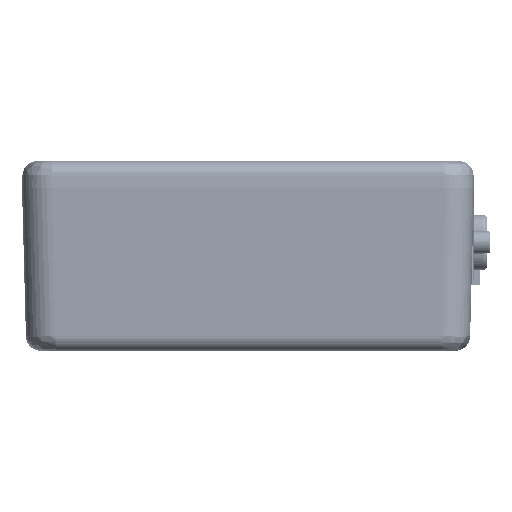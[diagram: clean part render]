
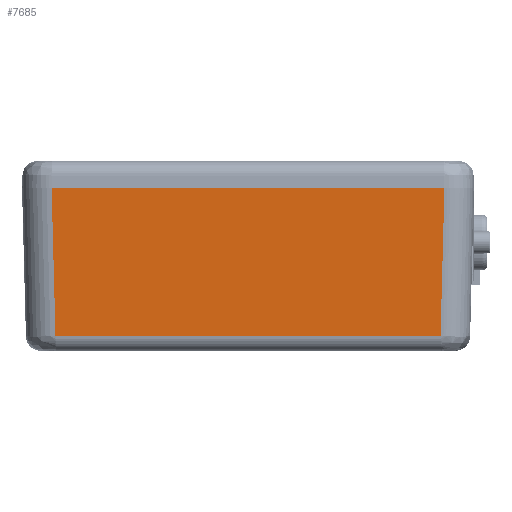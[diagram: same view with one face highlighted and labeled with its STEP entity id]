
A CAD part, left-side view. The second image highlights one B-rep face of the part: STEP entity #7685.
In plain terms, the highlighted planar face has unit normal (-1, 0, -0.026).
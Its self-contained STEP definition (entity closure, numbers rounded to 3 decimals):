
#516 = PLANE('',#517);
#517 = AXIS2_PLACEMENT_3D('',#518,#519,#520);
#518 = CARTESIAN_POINT('',(0.,1.,22.5));
#519 = DIRECTION('',(0.,0.,1.));
#520 = DIRECTION('',(-1.,0.,0.));
#1562 = VERTEX_POINT('',#1563);
#1563 = CARTESIAN_POINT('',(-60.,35.043,22.5));
#1582 = CYLINDRICAL_SURFACE('',#1583,5.);
#1583 = AXIS2_PLACEMENT_3D('',#1584,#1585,#1586);
#1584 = CARTESIAN_POINT('',(-54.966,35.007,
    21.28));
#1585 = DIRECTION('',(-0.026,0.026,
    0.999));
#1586 = DIRECTION('',(-0.707,0.707,-0.037)
  );
#1616 = EDGE_CURVE('',#1562,#1617,#1619,.T.);
#1617 = VERTEX_POINT('',#1618);
#1618 = CARTESIAN_POINT('',(-60.,-31.264,22.5));
#1619 = SURFACE_CURVE('',#1620,(#1624,#1631),.PCURVE_S1.);
#1620 = LINE('',#1621,#1622);
#1621 = CARTESIAN_POINT('',(-60.,19.25,22.5));
#1622 = VECTOR('',#1623,1.);
#1623 = DIRECTION('',(0.,-1.,0.));
#1624 = PCURVE('',#516,#1625);
#1625 = DEFINITIONAL_REPRESENTATION('',(#1626),#1630);
#1626 = LINE('',#1627,#1628);
#1627 = CARTESIAN_POINT('',(60.,-18.25));
#1628 = VECTOR('',#1629,1.);
#1629 = DIRECTION('',(0.,1.));
#1630 = ( GEOMETRIC_REPRESENTATION_CONTEXT(2) 
PARAMETRIC_REPRESENTATION_CONTEXT() REPRESENTATION_CONTEXT('2D SPACE',''
  ) );
#1631 = PCURVE('',#1632,#1637);
#1632 = PLANE('',#1633);
#1633 = AXIS2_PLACEMENT_3D('',#1634,#1635,#1636);
#1634 = CARTESIAN_POINT('',(-60.,19.25,22.5));
#1635 = DIRECTION('',(-1.,0.,
    -0.026));
#1636 = DIRECTION('',(-0.026,0.,
    1.));
#1637 = DEFINITIONAL_REPRESENTATION('',(#1638),#1642);
#1638 = LINE('',#1639,#1640);
#1639 = CARTESIAN_POINT('',(0.,0.));
#1640 = VECTOR('',#1641,1.);
#1641 = DIRECTION('',(0.,-1.));
#1642 = ( GEOMETRIC_REPRESENTATION_CONTEXT(2) 
PARAMETRIC_REPRESENTATION_CONTEXT() REPRESENTATION_CONTEXT('2D SPACE',''
  ) );
#1665 = CYLINDRICAL_SURFACE('',#1666,5.);
#1666 = AXIS2_PLACEMENT_3D('',#1667,#1668,#1669);
#1667 = CARTESIAN_POINT('',(-54.976,-31.238,
    21.634));
#1668 = DIRECTION('',(0.026,0.026,
    -0.999));
#1669 = DIRECTION('',(-0.707,-0.707,-0.037
    ));
#6939 = VERTEX_POINT('',#6940);
#6940 = CARTESIAN_POINT('',(-59.344,-30.608,
    -2.565));
#6954 = CYLINDRICAL_SURFACE('',#6955,2.5);
#6955 = AXIS2_PLACEMENT_3D('',#6956,#6957,#6958);
#6956 = CARTESIAN_POINT('',(-56.844,10.125,-2.5));
#6957 = DIRECTION('',(0.,1.,0.));
#6958 = DIRECTION('',(-0.698,0.,-0.716
    ));
#7455 = VERTEX_POINT('',#7456);
#7456 = CARTESIAN_POINT('',(-59.344,34.386,
    -2.565));
#7618 = EDGE_CURVE('',#6939,#7455,#7619,.T.);
#7619 = SURFACE_CURVE('',#7620,(#7624,#7631),.PCURVE_S1.);
#7620 = LINE('',#7621,#7622);
#7621 = CARTESIAN_POINT('',(-59.344,10.125,-2.565));
#7622 = VECTOR('',#7623,1.);
#7623 = DIRECTION('',(0.,1.,0.));
#7624 = PCURVE('',#6954,#7625);
#7625 = DEFINITIONAL_REPRESENTATION('',(#7626),#7630);
#7626 = LINE('',#7627,#7628);
#7627 = CARTESIAN_POINT('',(0.772,0.));
#7628 = VECTOR('',#7629,1.);
#7629 = DIRECTION('',(0.,1.));
#7630 = ( GEOMETRIC_REPRESENTATION_CONTEXT(2) 
PARAMETRIC_REPRESENTATION_CONTEXT() REPRESENTATION_CONTEXT('2D SPACE',''
  ) );
#7631 = PCURVE('',#1632,#7632);
#7632 = DEFINITIONAL_REPRESENTATION('',(#7633),#7637);
#7633 = LINE('',#7634,#7635);
#7634 = CARTESIAN_POINT('',(-25.074,-9.125));
#7635 = VECTOR('',#7636,1.);
#7636 = DIRECTION('',(0.,1.));
#7637 = ( GEOMETRIC_REPRESENTATION_CONTEXT(2) 
PARAMETRIC_REPRESENTATION_CONTEXT() REPRESENTATION_CONTEXT('2D SPACE',''
  ) );
#7643 = EDGE_CURVE('',#7455,#1562,#7644,.T.);
#7644 = SURFACE_CURVE('',#7645,(#7649,#7656),.PCURVE_S1.);
#7645 = LINE('',#7646,#7647);
#7646 = CARTESIAN_POINT('',(-59.965,35.007,
    21.149));
#7647 = VECTOR('',#7648,1.);
#7648 = DIRECTION('',(-0.026,0.026,
    0.999));
#7649 = PCURVE('',#1582,#7650);
#7650 = DEFINITIONAL_REPRESENTATION('',(#7651),#7655);
#7651 = LINE('',#7652,#7653);
#7652 = CARTESIAN_POINT('',(0.785,0.));
#7653 = VECTOR('',#7654,1.);
#7654 = DIRECTION('',(0.,1.));
#7655 = ( GEOMETRIC_REPRESENTATION_CONTEXT(2) 
PARAMETRIC_REPRESENTATION_CONTEXT() REPRESENTATION_CONTEXT('2D SPACE',''
  ) );
#7656 = PCURVE('',#1632,#7657);
#7657 = DEFINITIONAL_REPRESENTATION('',(#7658),#7662);
#7658 = LINE('',#7659,#7660);
#7659 = CARTESIAN_POINT('',(-1.352,15.757));
#7660 = VECTOR('',#7661,1.);
#7661 = DIRECTION('',(1.,0.026));
#7662 = ( GEOMETRIC_REPRESENTATION_CONTEXT(2) 
PARAMETRIC_REPRESENTATION_CONTEXT() REPRESENTATION_CONTEXT('2D SPACE',''
  ) );
#7685 = ADVANCED_FACE('',(#7686),#1632,.T.);
#7686 = FACE_BOUND('',#7687,.T.);
#7687 = EDGE_LOOP('',(#7688,#7689,#7710,#7711));
#7688 = ORIENTED_EDGE('',*,*,#7618,.F.);
#7689 = ORIENTED_EDGE('',*,*,#7690,.F.);
#7690 = EDGE_CURVE('',#1617,#6939,#7691,.T.);
#7691 = SURFACE_CURVE('',#7692,(#7696,#7703),.PCURVE_S1.);
#7692 = LINE('',#7693,#7694);
#7693 = CARTESIAN_POINT('',(-59.974,-31.238,
    21.503));
#7694 = VECTOR('',#7695,1.);
#7695 = DIRECTION('',(0.026,0.026,
    -0.999));
#7696 = PCURVE('',#1632,#7697);
#7697 = DEFINITIONAL_REPRESENTATION('',(#7698),#7702);
#7698 = LINE('',#7699,#7700);
#7699 = CARTESIAN_POINT('',(-0.998,-50.488));
#7700 = VECTOR('',#7701,1.);
#7701 = DIRECTION('',(-1.,0.026));
#7702 = ( GEOMETRIC_REPRESENTATION_CONTEXT(2) 
PARAMETRIC_REPRESENTATION_CONTEXT() REPRESENTATION_CONTEXT('2D SPACE',''
  ) );
#7703 = PCURVE('',#1665,#7704);
#7704 = DEFINITIONAL_REPRESENTATION('',(#7705),#7709);
#7705 = LINE('',#7706,#7707);
#7706 = CARTESIAN_POINT('',(0.785,0.));
#7707 = VECTOR('',#7708,1.);
#7708 = DIRECTION('',(0.,1.));
#7709 = ( GEOMETRIC_REPRESENTATION_CONTEXT(2) 
PARAMETRIC_REPRESENTATION_CONTEXT() REPRESENTATION_CONTEXT('2D SPACE',''
  ) );
#7710 = ORIENTED_EDGE('',*,*,#1616,.F.);
#7711 = ORIENTED_EDGE('',*,*,#7643,.F.);
